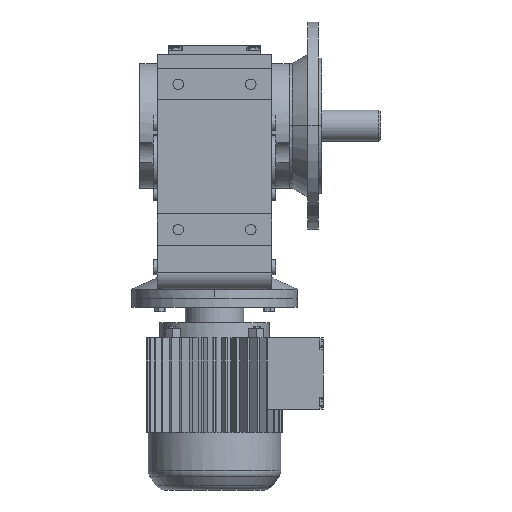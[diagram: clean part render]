
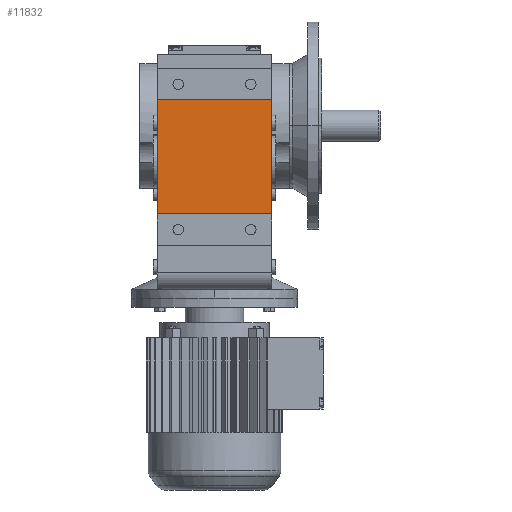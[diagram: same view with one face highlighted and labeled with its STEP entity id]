
A CAD part, front view. The second image highlights one B-rep face of the part: STEP entity #11832.
In plain terms, the highlighted planar face has unit normal (0, -1, 0).
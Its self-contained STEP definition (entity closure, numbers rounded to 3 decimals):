
#2116 = PLANE('',#2117);
#2117 = AXIS2_PLACEMENT_3D('',#2118,#2119,#2120);
#2118 = CARTESIAN_POINT('',(-55.,-92.08,-141.7));
#2119 = DIRECTION('',(-1.,0.,0.));
#2120 = DIRECTION('',(0.,0.,1.));
#4844 = VERTEX_POINT('',#4845);
#4845 = CARTESIAN_POINT('',(-55.,-108.08,-85.));
#4859 = PLANE('',#4860);
#4860 = AXIS2_PLACEMENT_3D('',#4861,#4862,#4863);
#4861 = CARTESIAN_POINT('',(-55.,-108.08,-85.));
#4862 = DIRECTION('',(0.,0.,1.));
#4863 = DIRECTION('',(1.,0.,0.));
#4871 = EDGE_CURVE('',#4872,#4844,#4874,.T.);
#4872 = VERTEX_POINT('',#4873);
#4873 = CARTESIAN_POINT('',(-55.,-108.08,25.));
#4874 = SURFACE_CURVE('',#4875,(#4879,#4886),.PCURVE_S1.);
#4875 = LINE('',#4876,#4877);
#4876 = CARTESIAN_POINT('',(-55.,-108.08,25.));
#4877 = VECTOR('',#4878,1.);
#4878 = DIRECTION('',(0.,0.,-1.));
#4879 = PCURVE('',#2116,#4880);
#4880 = DEFINITIONAL_REPRESENTATION('',(#4881),#4885);
#4881 = LINE('',#4882,#4883);
#4882 = CARTESIAN_POINT('',(166.7,-16.));
#4883 = VECTOR('',#4884,1.);
#4884 = DIRECTION('',(-1.,0.));
#4885 = ( GEOMETRIC_REPRESENTATION_CONTEXT(2) 
PARAMETRIC_REPRESENTATION_CONTEXT() REPRESENTATION_CONTEXT('2D SPACE',''
  ) );
#4886 = PCURVE('',#4887,#4892);
#4887 = PLANE('',#4888);
#4888 = AXIS2_PLACEMENT_3D('',#4889,#4890,#4891);
#4889 = CARTESIAN_POINT('',(-55.,-108.08,25.));
#4890 = DIRECTION('',(0.,-1.,0.));
#4891 = DIRECTION('',(0.,0.,-1.));
#4892 = DEFINITIONAL_REPRESENTATION('',(#4893),#4897);
#4893 = LINE('',#4894,#4895);
#4894 = CARTESIAN_POINT('',(0.,0.));
#4895 = VECTOR('',#4896,1.);
#4896 = DIRECTION('',(1.,0.));
#4897 = ( GEOMETRIC_REPRESENTATION_CONTEXT(2) 
PARAMETRIC_REPRESENTATION_CONTEXT() REPRESENTATION_CONTEXT('2D SPACE',''
  ) );
#4915 = PLANE('',#4916);
#4916 = AXIS2_PLACEMENT_3D('',#4917,#4918,#4919);
#4917 = CARTESIAN_POINT('',(-55.,-108.08,25.));
#4918 = DIRECTION('',(0.,0.,-1.));
#4919 = DIRECTION('',(-1.,0.,0.));
#10092 = PLANE('',#10093);
#10093 = AXIS2_PLACEMENT_3D('',#10094,#10095,#10096);
#10094 = CARTESIAN_POINT('',(55.,-92.08,-141.7));
#10095 = DIRECTION('',(-1.,0.,0.));
#10096 = DIRECTION('',(0.,0.,1.));
#11225 = VERTEX_POINT('',#11226);
#11226 = CARTESIAN_POINT('',(55.,-108.08,-85.));
#11247 = EDGE_CURVE('',#4844,#11225,#11248,.T.);
#11248 = SURFACE_CURVE('',#11249,(#11253,#11260),.PCURVE_S1.);
#11249 = LINE('',#11250,#11251);
#11250 = CARTESIAN_POINT('',(-55.,-108.08,-85.));
#11251 = VECTOR('',#11252,1.);
#11252 = DIRECTION('',(1.,0.,0.));
#11253 = PCURVE('',#4859,#11254);
#11254 = DEFINITIONAL_REPRESENTATION('',(#11255),#11259);
#11255 = LINE('',#11256,#11257);
#11256 = CARTESIAN_POINT('',(0.,0.));
#11257 = VECTOR('',#11258,1.);
#11258 = DIRECTION('',(1.,0.));
#11259 = ( GEOMETRIC_REPRESENTATION_CONTEXT(2) 
PARAMETRIC_REPRESENTATION_CONTEXT() REPRESENTATION_CONTEXT('2D SPACE',''
  ) );
#11260 = PCURVE('',#4887,#11261);
#11261 = DEFINITIONAL_REPRESENTATION('',(#11262),#11266);
#11262 = LINE('',#11263,#11264);
#11263 = CARTESIAN_POINT('',(110.,0.));
#11264 = VECTOR('',#11265,1.);
#11265 = DIRECTION('',(0.,1.));
#11266 = ( GEOMETRIC_REPRESENTATION_CONTEXT(2) 
PARAMETRIC_REPRESENTATION_CONTEXT() REPRESENTATION_CONTEXT('2D SPACE',''
  ) );
#11622 = EDGE_CURVE('',#4872,#11623,#11625,.T.);
#11623 = VERTEX_POINT('',#11624);
#11624 = CARTESIAN_POINT('',(55.,-108.08,25.));
#11625 = SURFACE_CURVE('',#11626,(#11630,#11637),.PCURVE_S1.);
#11626 = LINE('',#11627,#11628);
#11627 = CARTESIAN_POINT('',(-55.,-108.08,25.));
#11628 = VECTOR('',#11629,1.);
#11629 = DIRECTION('',(1.,0.,0.));
#11630 = PCURVE('',#4915,#11631);
#11631 = DEFINITIONAL_REPRESENTATION('',(#11632),#11636);
#11632 = LINE('',#11633,#11634);
#11633 = CARTESIAN_POINT('',(0.,0.));
#11634 = VECTOR('',#11635,1.);
#11635 = DIRECTION('',(-1.,0.));
#11636 = ( GEOMETRIC_REPRESENTATION_CONTEXT(2) 
PARAMETRIC_REPRESENTATION_CONTEXT() REPRESENTATION_CONTEXT('2D SPACE',''
  ) );
#11637 = PCURVE('',#4887,#11638);
#11638 = DEFINITIONAL_REPRESENTATION('',(#11639),#11643);
#11639 = LINE('',#11640,#11641);
#11640 = CARTESIAN_POINT('',(0.,0.));
#11641 = VECTOR('',#11642,1.);
#11642 = DIRECTION('',(0.,1.));
#11643 = ( GEOMETRIC_REPRESENTATION_CONTEXT(2) 
PARAMETRIC_REPRESENTATION_CONTEXT() REPRESENTATION_CONTEXT('2D SPACE',''
  ) );
#11832 = ADVANCED_FACE('',(#11833),#4887,.T.);
#11833 = FACE_BOUND('',#11834,.T.);
#11834 = EDGE_LOOP('',(#11835,#11836,#11857,#11858));
#11835 = ORIENTED_EDGE('',*,*,#11247,.T.);
#11836 = ORIENTED_EDGE('',*,*,#11837,.F.);
#11837 = EDGE_CURVE('',#11623,#11225,#11838,.T.);
#11838 = SURFACE_CURVE('',#11839,(#11843,#11850),.PCURVE_S1.);
#11839 = LINE('',#11840,#11841);
#11840 = CARTESIAN_POINT('',(55.,-108.08,25.));
#11841 = VECTOR('',#11842,1.);
#11842 = DIRECTION('',(0.,0.,-1.));
#11843 = PCURVE('',#4887,#11844);
#11844 = DEFINITIONAL_REPRESENTATION('',(#11845),#11849);
#11845 = LINE('',#11846,#11847);
#11846 = CARTESIAN_POINT('',(0.,110.));
#11847 = VECTOR('',#11848,1.);
#11848 = DIRECTION('',(1.,0.));
#11849 = ( GEOMETRIC_REPRESENTATION_CONTEXT(2) 
PARAMETRIC_REPRESENTATION_CONTEXT() REPRESENTATION_CONTEXT('2D SPACE',''
  ) );
#11850 = PCURVE('',#10092,#11851);
#11851 = DEFINITIONAL_REPRESENTATION('',(#11852),#11856);
#11852 = LINE('',#11853,#11854);
#11853 = CARTESIAN_POINT('',(166.7,-16.));
#11854 = VECTOR('',#11855,1.);
#11855 = DIRECTION('',(-1.,0.));
#11856 = ( GEOMETRIC_REPRESENTATION_CONTEXT(2) 
PARAMETRIC_REPRESENTATION_CONTEXT() REPRESENTATION_CONTEXT('2D SPACE',''
  ) );
#11857 = ORIENTED_EDGE('',*,*,#11622,.F.);
#11858 = ORIENTED_EDGE('',*,*,#4871,.T.);
